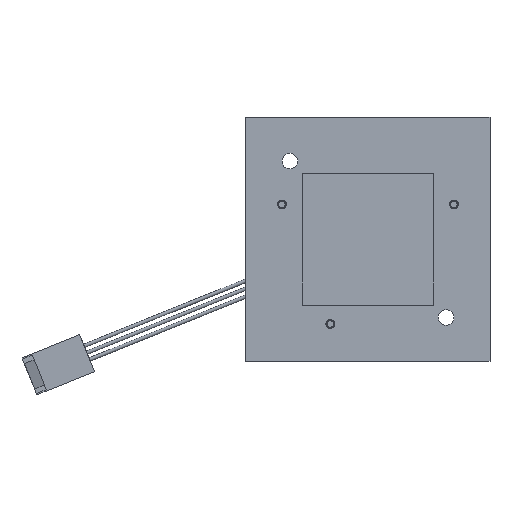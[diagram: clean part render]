
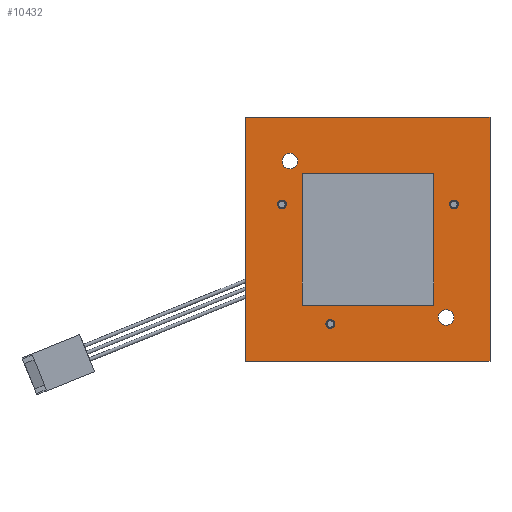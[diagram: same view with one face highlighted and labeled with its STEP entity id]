
A CAD part, front view. The second image highlights one B-rep face of the part: STEP entity #10432.
In plain terms, the highlighted planar face has unit normal (0, -1, 0).
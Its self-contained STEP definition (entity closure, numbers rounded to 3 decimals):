
#1302 = EDGE_LOOP ( 'NONE', ( #51882, #6594 ) ) ;
#1810 = CARTESIAN_POINT ( 'NONE',  ( 16.001, 0.5, -14.401 ) ) ;
#2039 = LINE ( 'NONE', #33942, #15743 ) ;
#2684 = DIRECTION ( 'NONE',  ( 0., -1., 0. ) ) ;
#2800 = EDGE_CURVE ( 'NONE', #36838, #39902, #43681, .T. ) ;
#3229 = EDGE_CURVE ( 'NONE', #49010, #46282, #4166, .T. ) ;
#3652 = VERTEX_POINT ( 'NONE', #31142 ) ;
#3919 = ORIENTED_EDGE ( 'NONE', *, *, #6377, .T. ) ;
#4166 = CIRCLE ( 'NONE', #35349, 1.6 ) ;
#4199 = CARTESIAN_POINT ( 'NONE',  ( -17.616, 0.5, 7.118 ) ) ;
#4634 = CARTESIAN_POINT ( 'NONE',  ( 25., 0.5, 25. ) ) ;
#4690 = ORIENTED_EDGE ( 'NONE', *, *, #19992, .T. ) ;
#5330 = DIRECTION ( 'NONE',  ( 0., 0., -1. ) ) ;
#5966 = CARTESIAN_POINT ( 'NONE',  ( 25., 0.5, 25. ) ) ;
#6377 = EDGE_CURVE ( 'NONE', #29822, #43274, #27013, .T. ) ;
#6594 = ORIENTED_EDGE ( 'NONE', *, *, #36345, .F. ) ;
#6899 = VERTEX_POINT ( 'NONE', #30244 ) ;
#7168 = AXIS2_PLACEMENT_3D ( 'NONE', #12414, #7414, #48023 ) ;
#7414 = DIRECTION ( 'NONE',  ( 0., -1., 0. ) ) ;
#7962 = CIRCLE ( 'NONE', #31527, 0.9 ) ;
#8930 = EDGE_LOOP ( 'NONE', ( #25849, #44934 ) ) ;
#9503 = EDGE_CURVE ( 'NONE', #17334, #39307, #26764, .T. ) ;
#9546 = CARTESIAN_POINT ( 'NONE',  ( -17.616, 0.5, 7.118 ) ) ;
#9611 = ORIENTED_EDGE ( 'NONE', *, *, #30470, .T. ) ;
#10203 = DIRECTION ( 'NONE',  ( 0., 0., -1. ) ) ;
#10432 = ADVANCED_FACE ( 'NONE', ( #31396, #30893, #46986, #15045, #31147, #43255 ), #47237, .T. ) ;
#10462 = DIRECTION ( 'NONE',  ( 0., -1., 0. ) ) ;
#10561 = EDGE_CURVE ( 'NONE', #42776, #6899, #45065, .T. ) ;
#10562 = DIRECTION ( 'NONE',  ( 0., -1., 0. ) ) ;
#11302 = VERTEX_POINT ( 'NONE', #46133 ) ;
#12414 = CARTESIAN_POINT ( 'NONE',  ( 0., 0.5, 0. ) ) ;
#12678 = CARTESIAN_POINT ( 'NONE',  ( 17.616, 0.5, 7.118 ) ) ;
#12716 = EDGE_CURVE ( 'NONE', #39902, #36838, #48551, .T. ) ;
#13605 = CARTESIAN_POINT ( 'NONE',  ( -7.728, 0.5, -18.257 ) ) ;
#14395 = CARTESIAN_POINT ( 'NONE',  ( -16.002, 0.5, 16.002 ) ) ;
#14777 = DIRECTION ( 'NONE',  ( 0., 0., -1. ) ) ;
#14803 = CARTESIAN_POINT ( 'NONE',  ( 16.001, 0.5, -17.601 ) ) ;
#15045 = FACE_BOUND ( 'NONE', #22236, .T. ) ;
#15743 = VECTOR ( 'NONE', #41588, 1000. ) ;
#15860 = EDGE_CURVE ( 'NONE', #6899, #42776, #7962, .T. ) ;
#16473 = DIRECTION ( 'NONE',  ( 0., -1., 0. ) ) ;
#16759 = AXIS2_PLACEMENT_3D ( 'NONE', #26721, #34373, #50452 ) ;
#17334 = VERTEX_POINT ( 'NONE', #42831 ) ;
#17526 = LINE ( 'NONE', #4634, #38713 ) ;
#17998 = ORIENTED_EDGE ( 'NONE', *, *, #15860, .F. ) ;
#18313 = AXIS2_PLACEMENT_3D ( 'NONE', #9546, #45894, #5330 ) ;
#18853 = ORIENTED_EDGE ( 'NONE', *, *, #3229, .F. ) ;
#18879 = DIRECTION ( 'NONE',  ( 0., 0., -1. ) ) ;
#19817 = AXIS2_PLACEMENT_3D ( 'NONE', #12678, #29522, #20839 ) ;
#19992 = EDGE_CURVE ( 'NONE', #34927, #29822, #17526, .T. ) ;
#20260 = DIRECTION ( 'NONE',  ( 0., -1., 0. ) ) ;
#20671 = CARTESIAN_POINT ( 'NONE',  ( -16.002, 0.5, 14.402 ) ) ;
#20839 = DIRECTION ( 'NONE',  ( 0., 0., -1. ) ) ;
#20947 = ORIENTED_EDGE ( 'NONE', *, *, #37276, .F. ) ;
#20965 = DIRECTION ( 'NONE',  ( 0., 0., -1. ) ) ;
#21623 = DIRECTION ( 'NONE',  ( 0., -1., 0. ) ) ;
#22236 = EDGE_LOOP ( 'NONE', ( #20947, #51362 ) ) ;
#22660 = ORIENTED_EDGE ( 'NONE', *, *, #10561, .F. ) ;
#23194 = DIRECTION ( 'NONE',  ( 0., 0., -1. ) ) ;
#23344 = EDGE_LOOP ( 'NONE', ( #9611, #4690, #3919, #46151 ) ) ;
#24086 = EDGE_CURVE ( 'NONE', #46282, #49010, #50041, .T. ) ;
#24114 = AXIS2_PLACEMENT_3D ( 'NONE', #29632, #16473, #20965 ) ;
#24887 = CIRCLE ( 'NONE', #31549, 0.9 ) ;
#25129 = CARTESIAN_POINT ( 'NONE',  ( 25., 0.5, -25. ) ) ;
#25849 = ORIENTED_EDGE ( 'NONE', *, *, #12716, .F. ) ;
#25974 = EDGE_CURVE ( 'NONE', #43274, #3652, #2039, .T. ) ;
#26380 = CARTESIAN_POINT ( 'NONE',  ( -7.728, 0.5, -17.357 ) ) ;
#26398 = VECTOR ( 'NONE', #36467, 1000. ) ;
#26721 = CARTESIAN_POINT ( 'NONE',  ( 16.001, 0.5, -16.001 ) ) ;
#26764 = CIRCLE ( 'NONE', #46989, 0.9 ) ;
#26986 = CARTESIAN_POINT ( 'NONE',  ( 17.616, 0.5, 6.218 ) ) ;
#27013 = LINE ( 'NONE', #38620, #50107 ) ;
#28664 = CARTESIAN_POINT ( 'NONE',  ( -25., 0.5, 25. ) ) ;
#29252 = EDGE_LOOP ( 'NONE', ( #37781, #18853 ) ) ;
#29522 = DIRECTION ( 'NONE',  ( 0., -1., 0. ) ) ;
#29565 = LINE ( 'NONE', #25129, #26398 ) ;
#29632 = CARTESIAN_POINT ( 'NONE',  ( 16.001, 0.5, -16.001 ) ) ;
#29822 = VERTEX_POINT ( 'NONE', #28664 ) ;
#29995 = AXIS2_PLACEMENT_3D ( 'NONE', #26380, #10562, #39011 ) ;
#30244 = CARTESIAN_POINT ( 'NONE',  ( 17.616, 0.5, 8.018 ) ) ;
#30470 = EDGE_CURVE ( 'NONE', #3652, #34927, #29565, .T. ) ;
#30893 = FACE_BOUND ( 'NONE', #8930, .T. ) ;
#31142 = CARTESIAN_POINT ( 'NONE',  ( 25., 0.5, -25. ) ) ;
#31147 = FACE_BOUND ( 'NONE', #49355, .T. ) ;
#31396 = FACE_BOUND ( 'NONE', #29252, .T. ) ;
#31527 = AXIS2_PLACEMENT_3D ( 'NONE', #41821, #33912, #10203 ) ;
#31549 = AXIS2_PLACEMENT_3D ( 'NONE', #4199, #20260, #23194 ) ;
#31865 = CARTESIAN_POINT ( 'NONE',  ( -16.002, 0.5, 17.602 ) ) ;
#32983 = CARTESIAN_POINT ( 'NONE',  ( -17.616, 0.5, 8.018 ) ) ;
#33912 = DIRECTION ( 'NONE',  ( 0., -1., 0. ) ) ;
#33942 = CARTESIAN_POINT ( 'NONE',  ( 25., 0.5, -25. ) ) ;
#34373 = DIRECTION ( 'NONE',  ( 0., -1., 0. ) ) ;
#34927 = VERTEX_POINT ( 'NONE', #5966 ) ;
#35073 = CIRCLE ( 'NONE', #29995, 0.9 ) ;
#35349 = AXIS2_PLACEMENT_3D ( 'NONE', #14395, #10462, #18879 ) ;
#36345 = EDGE_CURVE ( 'NONE', #43622, #11302, #24887, .T. ) ;
#36467 = DIRECTION ( 'NONE',  ( 0., 0., 1. ) ) ;
#36838 = VERTEX_POINT ( 'NONE', #14803 ) ;
#37276 = EDGE_CURVE ( 'NONE', #39307, #17334, #35073, .T. ) ;
#37422 = AXIS2_PLACEMENT_3D ( 'NONE', #47746, #2684, #14777 ) ;
#37713 = DIRECTION ( 'NONE',  ( 0., 0., -1. ) ) ;
#37781 = ORIENTED_EDGE ( 'NONE', *, *, #24086, .F. ) ;
#38481 = CARTESIAN_POINT ( 'NONE',  ( -7.728, 0.5, -17.357 ) ) ;
#38620 = CARTESIAN_POINT ( 'NONE',  ( -25., 0.5, -25. ) ) ;
#38713 = VECTOR ( 'NONE', #41521, 1000. ) ;
#39011 = DIRECTION ( 'NONE',  ( 0., 0., -1. ) ) ;
#39131 = DIRECTION ( 'NONE',  ( 0., 0., -1. ) ) ;
#39307 = VERTEX_POINT ( 'NONE', #13605 ) ;
#39656 = EDGE_CURVE ( 'NONE', #11302, #43622, #41030, .T. ) ;
#39902 = VERTEX_POINT ( 'NONE', #1810 ) ;
#41030 = CIRCLE ( 'NONE', #18313, 0.9 ) ;
#41521 = DIRECTION ( 'NONE',  ( -1., 0., 0. ) ) ;
#41588 = DIRECTION ( 'NONE',  ( 1., 0., 0. ) ) ;
#41821 = CARTESIAN_POINT ( 'NONE',  ( 17.616, 0.5, 7.118 ) ) ;
#42776 = VERTEX_POINT ( 'NONE', #26986 ) ;
#42831 = CARTESIAN_POINT ( 'NONE',  ( -7.728, 0.5, -16.457 ) ) ;
#43255 = FACE_OUTER_BOUND ( 'NONE', #23344, .T. ) ;
#43274 = VERTEX_POINT ( 'NONE', #51530 ) ;
#43622 = VERTEX_POINT ( 'NONE', #32983 ) ;
#43681 = CIRCLE ( 'NONE', #16759, 1.6 ) ;
#44934 = ORIENTED_EDGE ( 'NONE', *, *, #2800, .F. ) ;
#45065 = CIRCLE ( 'NONE', #19817, 0.9 ) ;
#45894 = DIRECTION ( 'NONE',  ( 0., -1., 0. ) ) ;
#46133 = CARTESIAN_POINT ( 'NONE',  ( -17.616, 0.5, 6.218 ) ) ;
#46151 = ORIENTED_EDGE ( 'NONE', *, *, #25974, .T. ) ;
#46282 = VERTEX_POINT ( 'NONE', #31865 ) ;
#46986 = FACE_BOUND ( 'NONE', #1302, .T. ) ;
#46989 = AXIS2_PLACEMENT_3D ( 'NONE', #38481, #21623, #37713 ) ;
#47237 = PLANE ( 'NONE',  #7168 ) ;
#47746 = CARTESIAN_POINT ( 'NONE',  ( -16.002, 0.5, 16.002 ) ) ;
#48023 = DIRECTION ( 'NONE',  ( 0., 0., -1. ) ) ;
#48551 = CIRCLE ( 'NONE', #24114, 1.6 ) ;
#49010 = VERTEX_POINT ( 'NONE', #20671 ) ;
#49355 = EDGE_LOOP ( 'NONE', ( #22660, #17998 ) ) ;
#50041 = CIRCLE ( 'NONE', #37422, 1.6 ) ;
#50107 = VECTOR ( 'NONE', #39131, 1000. ) ;
#50452 = DIRECTION ( 'NONE',  ( 0., 0., -1. ) ) ;
#51362 = ORIENTED_EDGE ( 'NONE', *, *, #9503, .F. ) ;
#51530 = CARTESIAN_POINT ( 'NONE',  ( -25., 0.5, -25. ) ) ;
#51882 = ORIENTED_EDGE ( 'NONE', *, *, #39656, .F. ) ;
